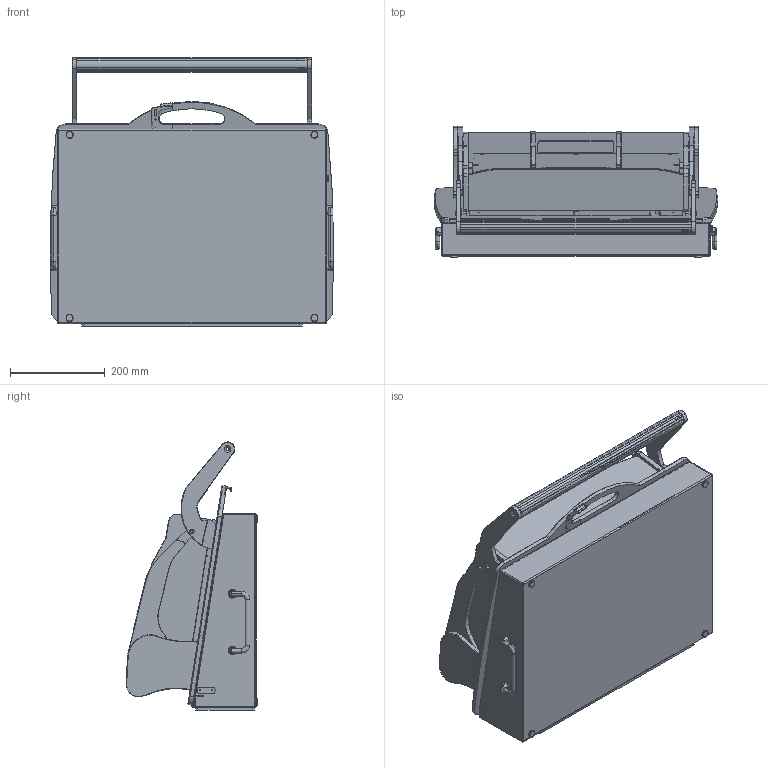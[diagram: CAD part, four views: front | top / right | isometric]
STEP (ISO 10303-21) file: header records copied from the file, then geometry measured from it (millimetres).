
FILE_DESCRIPTION (( 'STEP AP203' ), '1' );
FILE_NAME ('TTM13-03001.STEP', '2017-03-23T11:23:44', ( 'Admin' ), ( '' ), 'SwSTEP 2.0', 'SolidWorks 2016', '' );
FILE_SCHEMA (( 'CONFIG_CONTROL_DESIGN' ));
Length unit declared in the file: millimetre
Products named in the file (56): TT104064; TT331001; TTE90-01272; TTE90-01231; TTE90-01407; TTE04-00031; TTE90-01404; TTISO 4762 M4 x 20_ISO 4762 M4 x 20 --- 20C; Kopie von 283166-01^TT283166; TTB02-00067_3-Angezogen; TT336001; TTE90-01406; TTE90-01393; TTE90-01269; TTB01-00071; Kopie von 283166-02^TT283166; TTM13-03001; Klappgriffteil 1^TT330006; TTE90-01365; TTE90-01292; TTE90-01270; TTE05-00123; Kopie von 283166-03^TT283166; Klappgriff^TT330006; TTE90-01366; TTE90-01293; TTE90-00045; TTE02-00073; Kopie von 283166-04^TT283166; TT330006; TTE90-01392; TTE01-00117_t〉kis; TTE90-01402; TT426005; TTE03-00039; TT283166; Kopie von 331001-01^TT331001; TTE90-01395; TTE90-00080; TTE90-01397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
Assembly tree (74 placements, depth 4):
  TTM13-03001
    TTB01-00071
      TTE01-00117_t〉kis
      TTE90-00080
      TTE90-00071  x2
      TTE90-01229
      TTE90-01231
      TT336001  x4
      TT330006  x2
        Klappgriffteil 1^TT330006
        Klappgriff^TT330006
      TT331001  x3
        Kopie von 331001-01^TT331001
        Kopie von 331001-02^TT331001
        Kopie von 331001-03^TT331001
      TT283166
        Kopie von 283166-01^TT283166
        Kopie von 283166-02^TT283166
        Kopie von 283166-03^TT283166
        Kopie von 283166-04^TT283166
      TT334001_eingefahren
        Kopie von 334001-01^TT334001
      TT104064
      TTISO 4762 M4 x 20_ISO 4762 M4 x 20 --- 20C
    TTB04-00011
      TTE05-00123
      TTE02-00073
      TTE03-00039
      TTE90-01409
      TTE90-01399
      TTE90-01400
      TTE90-01404
      TTE90-01269  x2
      TTE90-01270  x2
      TTE90-00045
      TT426005  x4
      DIN 923 - M4 x 20_DIN 923 - M4 x 20  x4
    TTB02-00067_3-Angezogen
      TTE90-01394
      TTE04-00031
      TTE90-01393
      TTE90-01292
      TTE90-01293
      TTE90-01402  x2
      TTE90-01397
      TTE90-01398
      TTE90-01304  x2
      TTE90-01407
      TTE90-01406
      TTE90-01365
      TTE90-01366
      TTE90-01392
      TTE90-01395
      TTE90-01396
      TTE90-01177  x2
      TTE90-01272
Bounding box: 597.42 x 277.84 x 564.98 mm (x, y, z)
Volume: 9488060.1 mm3; surface area: 3214196.5 mm2
Topology: 76 solids, 76 shells, 3869 faces, 9863 edges, 6235 vertices
Faces by surface type: cylinder 1744, plane 1416, cone 523, torus 145, bspline 32, sphere 9
Entity records: 107609 total; most frequent: CARTESIAN_POINT 22062, DIRECTION 17199, ORIENTED_EDGE 16172, EDGE_CURVE 8086, AXIS2_PLACEMENT_3D 6450, VERTEX_POINT 5149, VECTOR 4299, LINE 4299
